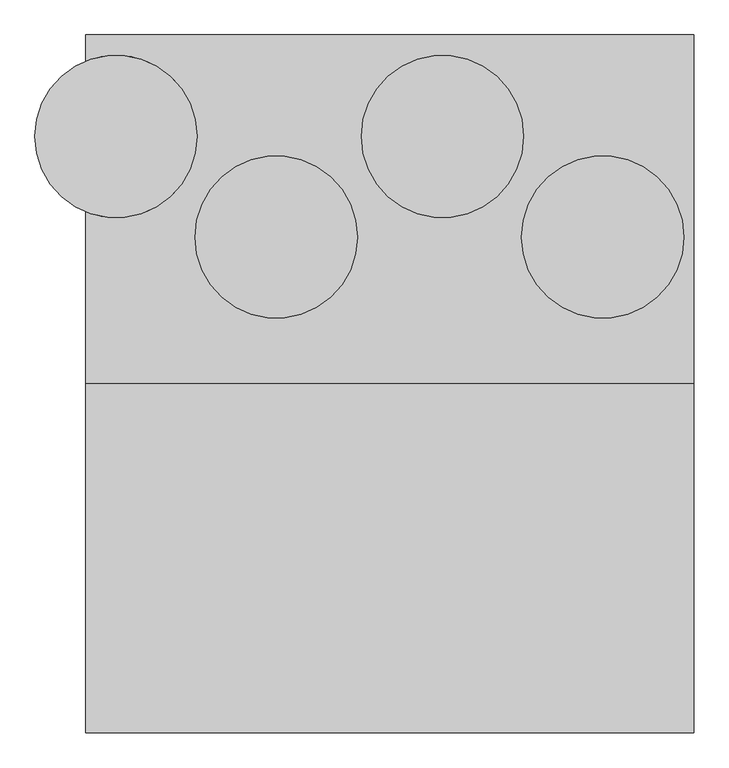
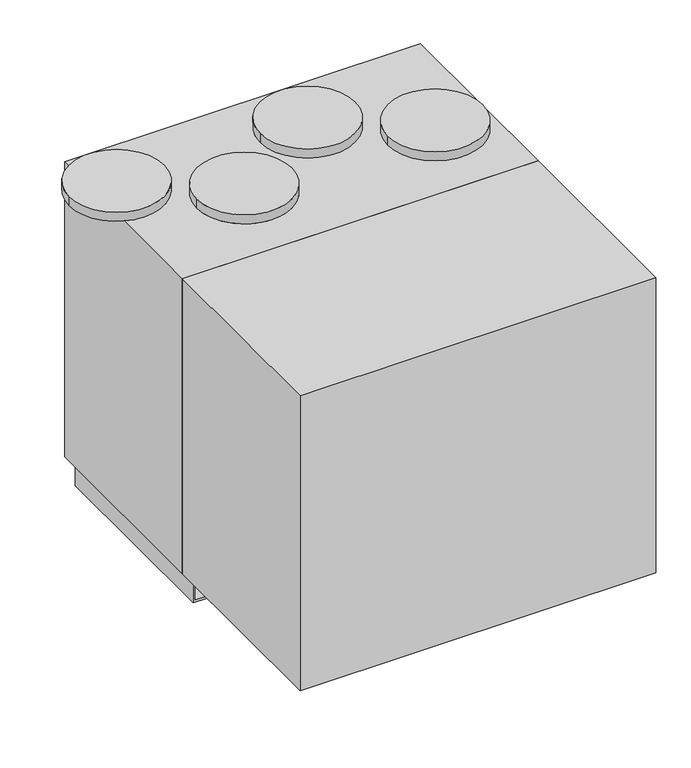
"""IFC4 building model written with IfcOpenShell, lengths in millimetres: proxy geometry, ADSK_КПВУ RIVIERA-EC VRE_круглая : Riviera-EC VRE 2200."""

import ifcopenshell
import ifcopenshell.guid

model = None  # the IFC model being written
_history = None  # IfcOwnerHistory: only IFC2X3 demands one
_inside = {}  # id of a spatial element -> (the spatial element, [elements in it])
_under = {}  # id of a project, library or spatial element -> (it, [spatial elements below it])
_declared = {}  # id of a project -> (the project, [libraries it declares])
_typed = {}  # id of a type object -> (the type object, [elements of that type])
_made_of = {}  # id of a material, layer set ... -> (it, [elements and type objects made of it])


def new_model(schema):
    """Start an empty IFC model of exactly this schema.

    Asked for "IFC4X3", IfcOpenShell would pick the latest addendum, in which some entities
    have other attributes; the version numbers below select the first issue.
    IFC2X3 requires an IfcOwnerHistory on every rooted entity: one is made here for all.
    """
    global model, _history
    if schema == "IFC4X3":
        model = ifcopenshell.file(schema_version=(4, 3, 0, 0))
    else:
        model = ifcopenshell.file(schema=schema)
    _inside.clear()
    _under.clear()
    _declared.clear()
    _typed.clear()
    _made_of.clear()
    _history = None
    if model.schema == "IFC2X3":
        org = make("IfcOrganization", Name="unknown")
        user = make(
            "IfcPersonAndOrganization",
            ThePerson=make("IfcPerson", FamilyName="unknown"),
            TheOrganization=org,
        )
        app = make(
            "IfcApplication",
            ApplicationDeveloper=org,
            Version="unknown",
            ApplicationFullName="unknown",
            ApplicationIdentifier="unknown",
        )
        _history = make(
            "IfcOwnerHistory",
            OwningUser=user,
            OwningApplication=app,
            ChangeAction="ADDED",
            CreationDate=0,
        )
    return model


def make(cls, **values):
    """One entity of the class cls with the attributes given. An attribute that is None is left unset."""
    return model.create_entity(
        cls, **{name: value for name, value in values.items() if value is not None}
    )


def rooted(cls, **values):
    """An entity with a GlobalId (a new one), such as an element, a storey or a relation."""
    return make(cls, GlobalId=ifcopenshell.guid.new(), OwnerHistory=_history, **values)


def si_unit(unit_type, name, prefix=None):
    """IfcSIUnit, for example si_unit("LENGTHUNIT", "METRE", prefix="MILLI")."""
    return make("IfcSIUnit", UnitType=unit_type, Prefix=prefix, Name=name)


def assignment(units):
    """IfcUnitAssignment: the units of a project."""
    return None if units is None else make("IfcUnitAssignment", Units=units)


def point(xyz):
    """IfcCartesianPoint."""
    return None if xyz is None else make("IfcCartesianPoint", Coordinates=xyz)


def direction(xyz):
    """IfcDirection."""
    return None if xyz is None else make("IfcDirection", DirectionRatios=xyz)


def frame(location, z_axis=None, x_axis=None):
    """IfcAxis2Placement3D, a coordinate frame: its origin and axes. An axis left out is left unset."""
    return make(
        "IfcAxis2Placement3D",
        Location=point(location),
        Axis=direction(z_axis),
        RefDirection=direction(x_axis),
    )


def origin():
    """The frame at (0, 0, 0) with its axes left unset."""
    return frame((0.0, 0.0, 0.0))


def place(relative_to, where):
    """IfcLocalPlacement: puts the frame where relative to a parent placement (None: the world)."""
    return make(
        "IfcLocalPlacement", PlacementRelTo=relative_to, RelativePlacement=where
    )


def context(
    kind, dimensions, precision=None, world=None, true_north=None, identifier=None
):
    """IfcGeometricRepresentationContext, for example the 3D "Model" context."""
    return make(
        "IfcGeometricRepresentationContext",
        ContextIdentifier=identifier,
        ContextType=kind,
        CoordinateSpaceDimension=dimensions,
        Precision=precision,
        WorldCoordinateSystem=world,
        TrueNorth=true_north,
    )


def project(units=None, contexts=None):
    """IfcProject with its units and contexts."""
    return rooted(
        "IfcProject",
        Name="project",
        RepresentationContexts=contexts,
        UnitsInContext=assignment(units),
    )


def spatial(cls, under=None, at=None, **own):
    """A site, building, storey or space (cls), placed at a placement, below another one or the project."""
    s = rooted(cls, ObjectPlacement=at, **own)
    if under is not None:
        _under.setdefault(under.id(), (under, []))[1].append(s)
    return s


def polyline(points):
    """IfcPolyline through the points."""
    return make("IfcPolyline", Points=[point(p) for p in points])


def circle_curve(where, radius):
    """IfcCircle in the frame where."""
    return make("IfcCircle", Position=where, Radius=radius)


def outline(outer, holes=None, kind="AREA"):
    """IfcArbitraryClosedProfileDef: a profile drawn as a closed curve; with holes, ...WithVoids."""
    if holes is None:
        return make("IfcArbitraryClosedProfileDef", ProfileType=kind, OuterCurve=outer)
    return make(
        "IfcArbitraryProfileDefWithVoids",
        ProfileType=kind,
        OuterCurve=outer,
        InnerCurves=holes,
    )


def extrude(swept, where, along, depth):
    """IfcExtrudedAreaSolid: the profile swept, set in the frame where, extruded along a direction by depth."""
    return make(
        "IfcExtrudedAreaSolid",
        SweptArea=swept,
        Position=where,
        ExtrudedDirection=direction(along),
        Depth=depth,
    )


def shape(context_of_items, identifier, shape_type, items):
    """IfcShapeRepresentation: the items that make up one representation, for example the "Body"."""
    return make(
        "IfcShapeRepresentation",
        ContextOfItems=context_of_items,
        RepresentationIdentifier=identifier,
        RepresentationType=shape_type,
        Items=items,
    )


def source(mapping_origin, context_of_items, identifier, shape_type, items):
    """IfcRepresentationMap: a shape defined once, which mapped items show again and again."""
    return make(
        "IfcRepresentationMap",
        MappingOrigin=mapping_origin,
        MappedRepresentation=shape(context_of_items, identifier, shape_type, items),
    )


def transform(
    local_origin,
    x_axis=None,
    y_axis=None,
    z_axis=None,
    scale=None,
    scale2=None,
    scale3=None,
    uniform=True,
):
    """IfcCartesianTransformationOperator3D, or its non-uniform kind. x_axis, y_axis, z_axis: its Axis1, 2, 3."""
    if uniform:
        return make(
            "IfcCartesianTransformationOperator3D",
            Axis1=direction(x_axis),
            Axis2=direction(y_axis),
            LocalOrigin=point(local_origin),
            Scale=scale,
            Axis3=direction(z_axis),
        )
    return make(
        "IfcCartesianTransformationOperator3DnonUniform",
        Axis1=direction(x_axis),
        Axis2=direction(y_axis),
        LocalOrigin=point(local_origin),
        Scale=scale,
        Axis3=direction(z_axis),
        Scale2=scale2,
        Scale3=scale3,
    )


def mapped(mapping_source, mapping_target):
    """IfcMappedItem: shows the shape of a source again, moved by a transform."""
    return make(
        "IfcMappedItem", MappingSource=mapping_source, MappingTarget=mapping_target
    )


def made_of(thing, what):
    """Note that an element or type object is made of a material, layer set ...; save() writes the relation."""
    if what is not None:
        _made_of.setdefault(what.id(), (what, []))[1].append(thing)
    return thing


def element(
    cls,
    number,
    at=None,
    inside=None,
    cuts=None,
    type_object=None,
    material=None,
    context=None,
    identifier="Body",
    shape_type=None,
    held_by="IfcProductDefinitionShape",
    body=None,
    shapes=None,
    **own,
):
    """One element of the class cls, such as IfcWall. Its Tag is "e" and its number.

    at: its placement. inside: the storey or other place that contains it. cuts: it is an
    opening in that element (IfcRelVoidsElement). A single representation is given by context,
    identifier, shape_type and body (its items); several are given by shapes. held_by: the class
    of the entity that holds the representations. save() writes the other relations.
    """
    e = rooted(cls, Tag="e%d" % number, ObjectPlacement=at, **own)
    if body is not None:
        shapes = [shape(context, identifier, shape_type, body)]
    if shapes is not None:
        e.Representation = make(held_by, Representations=shapes)
    if inside is not None:
        _inside.setdefault(inside.id(), (inside, []))[1].append(e)
    if cuts is not None:
        rooted(
            "IfcRelVoidsElement", RelatingBuildingElement=cuts, RelatedOpeningElement=e
        )
    if type_object is not None:
        _typed.setdefault(type_object.id(), (type_object, []))[1].append(e)
    return made_of(e, material)


def aggregate(whole, parts):
    """IfcRelAggregates: a whole, such as a stair, and the parts it consists of."""
    return rooted("IfcRelAggregates", RelatingObject=whole, RelatedObjects=parts)


def save(model, path):
    """Write the relations noted so far, then the file.

    IfcRelAggregates (storeys below a building ...), IfcRelContainedInSpatialStructure (elements
    in a storey), IfcRelDefinesByType, IfcRelAssociatesMaterial and IfcRelDeclares: one each for
    every whole, place, type object, material and project.
    """
    for whole, parts in _under.values():
        aggregate(whole, parts)
    for where, things in _inside.values():
        rooted(
            "IfcRelContainedInSpatialStructure",
            RelatedElements=things,
            RelatingStructure=where,
        )
    for kind, things in _typed.values():
        rooted("IfcRelDefinesByType", RelatedObjects=things, RelatingType=kind)
    for what, things in _made_of.values():
        rooted("IfcRelAssociatesMaterial", RelatedObjects=things, RelatingMaterial=what)
    for by, libraries in _declared.values():
        rooted("IfcRelDeclares", RelatingContext=by, RelatedDefinitions=libraries)
    model.write(path)


def plane_surface(at):
    """IfcPlane: the flat surface through the origin of the frame at, square to its z axis."""
    return make("IfcPlane", Position=at)


def cylinder_surface(at, radius):
    """IfcCylindricalSurface: all points at the distance radius from the z axis of the frame at."""
    return make("IfcCylindricalSurface", Position=at, Radius=radius)


def advanced_brep(points, edges, surfaces, faces):
    """IfcAdvancedBrep: a solid bounded by faces that lie on surfaces and meet in shared edges.

    An edge is (start, end): straight between two places in points (the first is 0);
    or (start, end, curve); or (start, end, curve, False) where it runs against its curve.
    A face is (place in surfaces, loops), or (place, loops, False) where it looks against
    its surface's normal. A loop lists edges by number (the first is 1), with a minus sign
    where the edge is run from its end to its start. The first loop is the outer one.
    """
    corners = [point(p) for p in points]
    vertices = [make("IfcVertexPoint", VertexGeometry=c) for c in corners]
    made = []
    for start, end, *more in edges:
        made.append(
            make(
                "IfcEdgeCurve",
                EdgeStart=vertices[start],
                EdgeEnd=vertices[end],
                EdgeGeometry=more[0] if more else make("IfcPolyline", Points=[corners[start], corners[end]]),
                SameSense=more[1] if len(more) > 1 else True,
            )
        )
    hull = []
    for where, loops, *sense in faces:
        bounds = []
        for j, loop in enumerate(loops):
            ring = [make("IfcOrientedEdge", EdgeElement=made[abs(k) - 1], Orientation=k > 0) for k in loop]
            bounds.append(
                make(
                    "IfcFaceOuterBound" if j == 0 else "IfcFaceBound",
                    Bound=make("IfcEdgeLoop", EdgeList=ring),
                    Orientation=True,
                )
            )
        hull.append(make("IfcAdvancedFace", Bounds=bounds, FaceSurface=surfaces[where], SameSense=sense[0] if sense else True))
    return make("IfcAdvancedBrep", Outer=make("IfcClosedShell", CfsFaces=hull))


def mechanical_equipment_fba3e411(model_context):
    return source(origin(), model_context, "Body", "SolidModel", [
        extrude(outline(polyline([(1016.0, -430.0), (1016.0, -1290.0), (-484.0, -1290.0), (-484.0, -430.0), (1016.0, -430.0)])), frame((0.0, 0.0, 145.0), z_axis=(0.0, 0.0, 1.0), x_axis=(1.0, 0.0, 0.0)), (0.0, 0.0, 1.0), 1315.0),
        advanced_brep(
        [(-379.0, -430.0, 0.0), (-379.0, -430.0, 145.0), (761.0, -430.0, 145.0), (761.0, -430.0, 0.0), (821.0, -430.0, 0.0), (821.0, -430.0, 145.0), (1016.0, -430.0, 145.0), (1016.0, -430.0, 1460.0), (-484.0, -430.0, 1460.0), (-484.0, -430.0, 145.0), (-439.0, -430.0, 145.0), (-439.0, -430.0, 0.0), (-389.0, -430.0, 10.0), (-429.0, -430.0, 10.0), (-429.0, -430.0, 145.0), (-389.0, -430.0, 145.0), (811.0, -430.0, 10.0), (771.0, -430.0, 10.0), (771.0, -430.0, 145.0), (811.0, -430.0, 145.0), (-379.0, 430.0, 0.0), (-439.0, 430.0, 0.0), (-439.0, 430.0, 145.0), (-484.0, 430.0, 145.0), (-484.0, 430.0, 1460.0), (1016.0, 430.0, 1460.0), (1016.0, 430.0, 145.0), (821.0, 430.0, 145.0), (821.0, 430.0, 0.0), (761.0, 430.0, 0.0), (761.0, 430.0, 145.0), (-379.0, 430.0, 145.0), (-389.0, 430.0, 10.0), (-389.0, 430.0, 145.0), (-429.0, 430.0, 145.0), (-429.0, 430.0, 10.0), (811.0, 430.0, 10.0), (811.0, 430.0, 145.0), (771.0, 430.0, 145.0), (771.0, 430.0, 10.0), (-609.0, 180.0, 1500.0), (-209.0, 180.0, 1500.0), (-214.0, -68.0, 1500.0), (186.0, -68.0, 1500.0), (196.0, 180.0, 1500.0), (596.0, 180.0, 1500.0), (591.0, -68.0, 1500.0), (991.0, -68.0, 1500.0), (-609.0, 180.0, 1460.0), (-484.0, 365.4049622, 1460.0), (-484.0, -5.4049622, 1460.0), (-209.0, 180.0, 1460.0), (-214.0, -68.0, 1460.0), (186.0, -68.0, 1460.0), (196.0, 180.0, 1460.0), (596.0, 180.0, 1460.0), (591.0, -68.0, 1460.0), (991.0, -68.0, 1460.0)],
        [
            (0, 1),
            (1, 2),
            (2, 3),
            (3, 4),
            (4, 5),
            (5, 6),
            (6, 7),
            (7, 8),
            (8, 9),
            (9, 10),
            (10, 11),
            (11, 0),
            (12, 13),
            (13, 14),
            (14, 15),
            (15, 12),
            (16, 17),
            (17, 18),
            (18, 19),
            (19, 16),
            (20, 21),
            (21, 22),
            (22, 23),
            (23, 24),
            (24, 25),
            (25, 26),
            (26, 27),
            (27, 28),
            (28, 29),
            (29, 30),
            (30, 31),
            (31, 20),
            (32, 33),
            (33, 34),
            (34, 35),
            (35, 32),
            (36, 37),
            (37, 38),
            (38, 39),
            (39, 36),
            (21, 11),
            (10, 22),
            (20, 0),
            (31, 1),
            (32, 12),
            (15, 33),
            (35, 13),
            (34, 14),
            (4, 28),
            (27, 5),
            (36, 16),
            (19, 37),
            (39, 17),
            (38, 18),
            (29, 3),
            (2, 30),
            (40, 41, circle_curve(frame((-409.0, 180.0, 1500.0), z_axis=(0.0, 0.0, 1.0), x_axis=(1.0, 0.0, 0.0)), 200.0)),
            (41, 40, circle_curve(frame((-409.0, 180.0, 1500.0), z_axis=(0.0, 0.0, 1.0), x_axis=(1.0, 0.0, 0.0)), 200.0)),
            (42, 43, circle_curve(frame((-14.0, -68.0, 1500.0), z_axis=(0.0, 0.0, 1.0), x_axis=(1.0, 0.0, 0.0)), 200.0)),
            (43, 42, circle_curve(frame((-14.0, -68.0, 1500.0), z_axis=(0.0, 0.0, 1.0), x_axis=(1.0, 0.0, 0.0)), 200.0)),
            (44, 45, circle_curve(frame((396.0, 180.0, 1500.0), z_axis=(0.0, 0.0, 1.0), x_axis=(1.0, 0.0, 0.0)), 200.0)),
            (45, 44, circle_curve(frame((396.0, 180.0, 1500.0), z_axis=(0.0, 0.0, 1.0), x_axis=(1.0, 0.0, 0.0)), 200.0)),
            (46, 47, circle_curve(frame((791.0, -68.0, 1500.0), z_axis=(0.0, 0.0, 1.0), x_axis=(1.0, 0.0, 0.0)), 200.0)),
            (47, 46, circle_curve(frame((791.0, -68.0, 1500.0), z_axis=(0.0, 0.0, 1.0), x_axis=(1.0, 0.0, 0.0)), 200.0)),
            (48, 49, circle_curve(frame((-409.0, 180.0, 1460.0), z_axis=(0.0, 0.0, -1.0), x_axis=(1.0, 0.0, 0.0)), 200.0)),
            (49, 50),
            (50, 48, circle_curve(frame((-409.0, 180.0, 1460.0), z_axis=(0.0, 0.0, -1.0), x_axis=(1.0, 0.0, 0.0)), 200.0)),
            (40, 48),
            (50, 51, circle_curve(frame((-409.0, 180.0, 1460.0), z_axis=(0.0, 0.0, 1.0), x_axis=(1.0, 0.0, 0.0)), 200.0)),
            (51, 41),
            (51, 49, circle_curve(frame((-409.0, 180.0, 1460.0), z_axis=(0.0, 0.0, 1.0), x_axis=(1.0, 0.0, 0.0)), 200.0)),
            (42, 52),
            (52, 53, circle_curve(frame((-14.0, -68.0, 1460.0), z_axis=(0.0, 0.0, 1.0), x_axis=(1.0, 0.0, 0.0)), 200.0)),
            (53, 43),
            (53, 52, circle_curve(frame((-14.0, -68.0, 1460.0), z_axis=(0.0, 0.0, 1.0), x_axis=(1.0, 0.0, 0.0)), 200.0)),
            (44, 54),
            (54, 55, circle_curve(frame((396.0, 180.0, 1460.0), z_axis=(0.0, 0.0, 1.0), x_axis=(1.0, 0.0, 0.0)), 200.0)),
            (55, 45),
            (55, 54, circle_curve(frame((396.0, 180.0, 1460.0), z_axis=(0.0, 0.0, 1.0), x_axis=(1.0, 0.0, 0.0)), 200.0)),
            (46, 56),
            (56, 57, circle_curve(frame((791.0, -68.0, 1460.0), z_axis=(0.0, 0.0, 1.0), x_axis=(1.0, 0.0, 0.0)), 200.0)),
            (57, 47),
            (57, 56, circle_curve(frame((791.0, -68.0, 1460.0), z_axis=(0.0, 0.0, 1.0), x_axis=(1.0, 0.0, 0.0)), 200.0)),
            (6, 26),
            (25, 7),
            (23, 9),
            (8, 50),
            (49, 24),
        ],
        [
            plane_surface(frame((-379.0, -430.0, 0.0), z_axis=(0.0, -1.0, 0.0), x_axis=(0.0, 0.0, 1.0))),
            plane_surface(frame((-379.0, 430.0, 0.0), z_axis=(0.0, 1.0, 0.0), x_axis=(0.0, 0.0, -1.0))),
            plane_surface(frame((-439.0, -430.0, 175.0), z_axis=(-1.0, 0.0, 0.0), x_axis=(0.0, 1.0, 0.0))),
            plane_surface(frame((-439.0, -430.0, 0.0), z_axis=(0.0, 0.0, -1.0), x_axis=(0.0, 1.0, 0.0))),
            plane_surface(frame((-379.0, -430.0, 0.0), z_axis=(1.0, 0.0, 0.0), x_axis=(0.0, 1.0, 0.0))),
            plane_surface(frame((-389.0, -430.0, 175.0), z_axis=(-1.0, 0.0, 0.0), x_axis=(0.0, 1.0, 0.0))),
            plane_surface(frame((-389.0, -430.0, 10.0), z_axis=(0.0, 0.0, 1.0), x_axis=(0.0, 1.0, 0.0))),
            plane_surface(frame((-429.0, -430.0, 10.0), z_axis=(1.0, 0.0, 0.0), x_axis=(0.0, 1.0, 0.0))),
            plane_surface(frame((821.0, -430.0, 0.0), z_axis=(1.0, 0.0, 0.0), x_axis=(0.0, 1.0, 0.0))),
            plane_surface(frame((811.0, -430.0, 175.0), z_axis=(-1.0, 0.0, 0.0), x_axis=(0.0, 1.0, 0.0))),
            plane_surface(frame((811.0, -430.0, 10.0), z_axis=(0.0, 0.0, 1.0), x_axis=(0.0, 1.0, 0.0))),
            plane_surface(frame((771.0, -430.0, 10.0), z_axis=(1.0, 0.0, 0.0), x_axis=(0.0, 1.0, 0.0))),
            plane_surface(frame((761.0, -430.0, 175.0), z_axis=(-1.0, 0.0, 0.0), x_axis=(0.0, 1.0, 0.0))),
            plane_surface(frame((761.0, -430.0, 0.0), z_axis=(0.0, 0.0, -1.0), x_axis=(0.0, 1.0, 0.0))),
            plane_surface(frame((-209.0, 180.0, 1500.0), z_axis=(0.0, 0.0, 1.0), x_axis=(0.0, 1.0, 0.0))),
            plane_surface(frame((-209.0, 180.0, 1460.0), z_axis=(0.0, 0.0, -1.0), x_axis=(0.0, -1.0, 0.0))),
            cylinder_surface(frame((-409.0, 180.0, 1460.0), z_axis=(0.0, 0.0, 1.0), x_axis=(1.0, 0.0, 0.0)), 200.0),
            cylinder_surface(frame((-14.0, -68.0, 0.0), z_axis=(0.0, 0.0, 1.0), x_axis=(1.0, 0.0, 0.0)), 200.0),
            cylinder_surface(frame((396.0, 180.0, 0.0), z_axis=(0.0, 0.0, 1.0), x_axis=(1.0, 0.0, 0.0)), 200.0),
            cylinder_surface(frame((791.0, -68.0, 0.0), z_axis=(0.0, 0.0, 1.0), x_axis=(1.0, 0.0, 0.0)), 200.0),
            plane_surface(frame((1016.0, -430.0, 1460.0), z_axis=(1.0, 0.0, 0.0), x_axis=(0.0, 0.0, -1.0))),
            plane_surface(frame((-484.0, -430.0, 1460.0), z_axis=(-1.0, 0.0, 0.0), x_axis=(0.0, 0.0, 1.0))),
            plane_surface(frame((1016.0, -430.0, 145.0), z_axis=(0.0, 0.0, -1.0), x_axis=(-1.0, 0.0, 0.0))),
            plane_surface(frame((1016.0, 430.0, 1460.0), z_axis=(0.0, 0.0, 1.0), x_axis=(-1.0, 0.0, 0.0))),
        ],
        [
            (0, [[1, 2, 3, 4, 5, 6, 7, 8, 9, 10, 11, 12], [13, 14, 15, 16], [17, 18, 19, 20]]),
            (1, [[21, 22, 23, 24, 25, 26, 27, 28, 29, 30, 31, 32], [33, 34, 35, 36], [37, 38, 39, 40]]),
            (2, [[41, -11, 42, -22]]),
            (3, [[-12, -41, -21, 43]]),
            (4, [[-43, -32, 44, -1]]),
            (5, [[45, -16, 46, -33]]),
            (6, [[-13, -45, -36, 47]]),
            (7, [[-47, -35, 48, -14]]),
            (8, [[49, -28, 50, -5]]),
            (9, [[51, -20, 52, -37]]),
            (10, [[-17, -51, -40, 53]]),
            (11, [[-53, -39, 54, -18]]),
            (12, [[55, -3, 56, -30]]),
            (13, [[-4, -55, -29, -49]]),
            (14, [[57, 58]]),
            (14, [[59, 60]]),
            (14, [[61, 62]]),
            (14, [[63, 64]]),
            (15, [[65, 66, 67]]),
            (16, [[-57, 68, -67, 69, 70]]),
            (16, [[-58, -70, 71, -65, -68]]),
            (17, [[-59, 72, 73, 74]]),
            (17, [[-60, -74, 75, -72]]),
            (18, [[-61, 76, 77, 78]]),
            (18, [[-62, -78, 79, -76]]),
            (19, [[-63, 80, 81, 82]]),
            (19, [[-64, -82, 83, -80]]),
            (20, [[-7, 84, -26, 85]]),
            (21, [[-24, 86, -9, 87, -66, 88]]),
            (22, [[-15, -48, -34, -46]]),
            (22, [[-19, -54, -38, -52]]),
            (22, [[-2, -44, -31, -56]]),
            (22, [[-84, -6, -50, -27]]),
            (22, [[-86, -23, -42, -10]]),
            (23, [[-85, -25, -88, -71, -69, -87, -8], [-73, -75], [-77, -79], [-81, -83]]),
        ],
    ),
    ])


if __name__ == "__main__":
    model = new_model("IFC4")
    model_context = context("Model", 3, world=origin())
    ifc_project = project(units=[si_unit("LENGTHUNIT", "METRE", prefix="MILLI")], contexts=[model_context])
    site = spatial("IfcSite", under=ifc_project)
    building = spatial("IfcBuilding", under=site)
    placement = place(None, origin())
    mechanical_equipment_shape = mechanical_equipment_fba3e411(model_context)
    element("IfcBuildingElementProxy", 1, Name="ADSK_КПВУ RIVIERA-EC VRE_круглая : Riviera-EC VRE 2200", ObjectType="ADSK_КПВУ RIVIERA-EC VRE_круглая : Riviera-EC VRE 2200", at=placement, inside=building, context=model_context, shape_type="MappedRepresentation", body=[
        mapped(mechanical_equipment_shape, transform((0.0, 0.0, 0.0), x_axis=(1.0, 0.0, 0.0), y_axis=(0.0, 1.0, 0.0), z_axis=(0.0, 0.0, 1.0))),
    ])
    save(model, "model.ifc")
